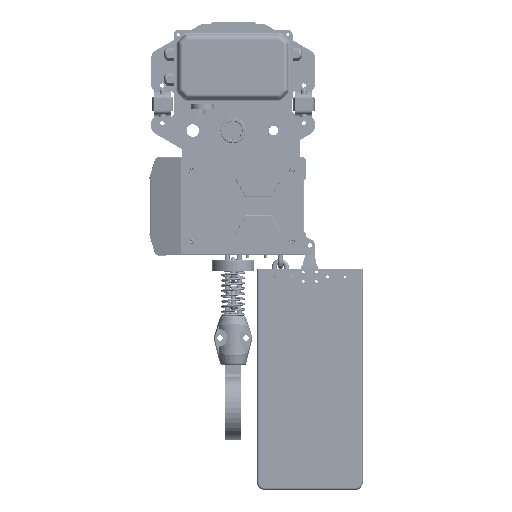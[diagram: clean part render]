
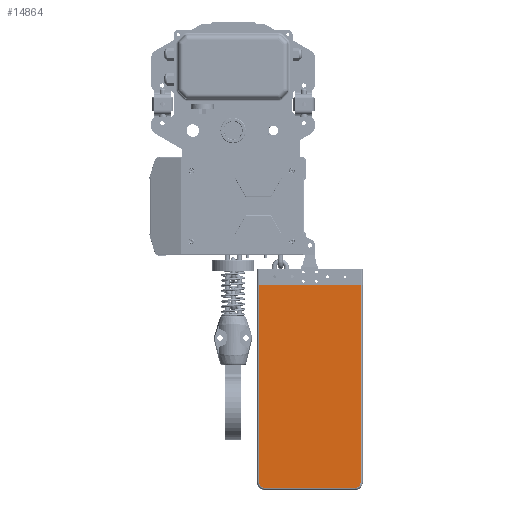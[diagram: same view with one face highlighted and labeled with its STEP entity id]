
A CAD part, top view. The second image highlights one B-rep face of the part: STEP entity #14864.
In plain terms, the highlighted planar face has unit normal (0, 0, 1).
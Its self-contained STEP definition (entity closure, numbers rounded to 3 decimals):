
#6763=CIRCLE('',#102171,11.);
#6764=CIRCLE('',#102172,11.);
#14864=ADVANCED_FACE('',(#22373),#19238,.T.);
#19238=PLANE('',#102173);
#22373=FACE_OUTER_BOUND('',#27563,.T.);
#27563=EDGE_LOOP('',(#42570,#42571,#42572,#42573,#42574,#42575));
#42570=ORIENTED_EDGE('',*,*,#74389,.T.);
#42571=ORIENTED_EDGE('',*,*,#74390,.T.);
#42572=ORIENTED_EDGE('',*,*,#74391,.T.);
#42573=ORIENTED_EDGE('',*,*,#74392,.T.);
#42574=ORIENTED_EDGE('',*,*,#74393,.T.);
#42575=ORIENTED_EDGE('',*,*,#74394,.T.);
#63349=VERTEX_POINT('',#158184);
#63350=VERTEX_POINT('',#158185);
#63351=VERTEX_POINT('',#158187);
#63352=VERTEX_POINT('',#158189);
#63353=VERTEX_POINT('',#158191);
#63354=VERTEX_POINT('',#158193);
#74389=EDGE_CURVE('',#63349,#63350,#86344,.T.);
#74390=EDGE_CURVE('',#63350,#63351,#86345,.T.);
#74391=EDGE_CURVE('',#63351,#63352,#86346,.T.);
#74392=EDGE_CURVE('',#63352,#63353,#6763,.T.);
#74393=EDGE_CURVE('',#63353,#63354,#86347,.T.);
#74394=EDGE_CURVE('',#63354,#63349,#6764,.T.);
#86344=LINE('',#158183,#93840);
#86345=LINE('',#158186,#93841);
#86346=LINE('',#158188,#93842);
#86347=LINE('',#158192,#93843);
#93840=VECTOR('',#117372,1.);
#93841=VECTOR('',#117373,1.);
#93842=VECTOR('',#117374,1.);
#93843=VECTOR('',#117377,1.);
#102171=AXIS2_PLACEMENT_3D('',#158190,#117375,#117376);
#102172=AXIS2_PLACEMENT_3D('',#158194,#117378,#117379);
#102173=AXIS2_PLACEMENT_3D('',#158195,#117380,#117381);
#117372=DIRECTION('',(0.,1.,0.));
#117373=DIRECTION('',(-1.,0.,0.));
#117374=DIRECTION('',(0.,-1.,0.));
#117375=DIRECTION('',(0.,0.,1.));
#117376=DIRECTION('',(1.,0.,0.));
#117377=DIRECTION('',(1.,0.,0.));
#117378=DIRECTION('',(0.,0.,1.));
#117379=DIRECTION('',(1.,0.,0.));
#117380=DIRECTION('',(0.,0.,1.));
#117381=DIRECTION('',(1.,0.,0.));
#158183=CARTESIAN_POINT('',(1920.462,56.396,196.375));
#158184=CARTESIAN_POINT('',(1920.462,-249.604,196.375));
#158185=CARTESIAN_POINT('',(1920.462,143.396,196.375));
#158186=CARTESIAN_POINT('',(1744.812,143.396,196.375));
#158187=CARTESIAN_POINT('',(1718.662,143.396,196.375));
#158188=CARTESIAN_POINT('',(1718.662,56.396,196.375));
#158189=CARTESIAN_POINT('',(1718.662,-249.604,196.375));
#158190=CARTESIAN_POINT('',(1729.662,-249.604,196.375));
#158191=CARTESIAN_POINT('',(1729.662,-260.604,196.375));
#158192=CARTESIAN_POINT('',(1909.462,-260.604,196.375));
#158193=CARTESIAN_POINT('',(1909.462,-260.604,196.375));
#158194=CARTESIAN_POINT('',(1909.462,-249.604,196.375));
#158195=CARTESIAN_POINT('',(1744.812,56.396,196.375));
